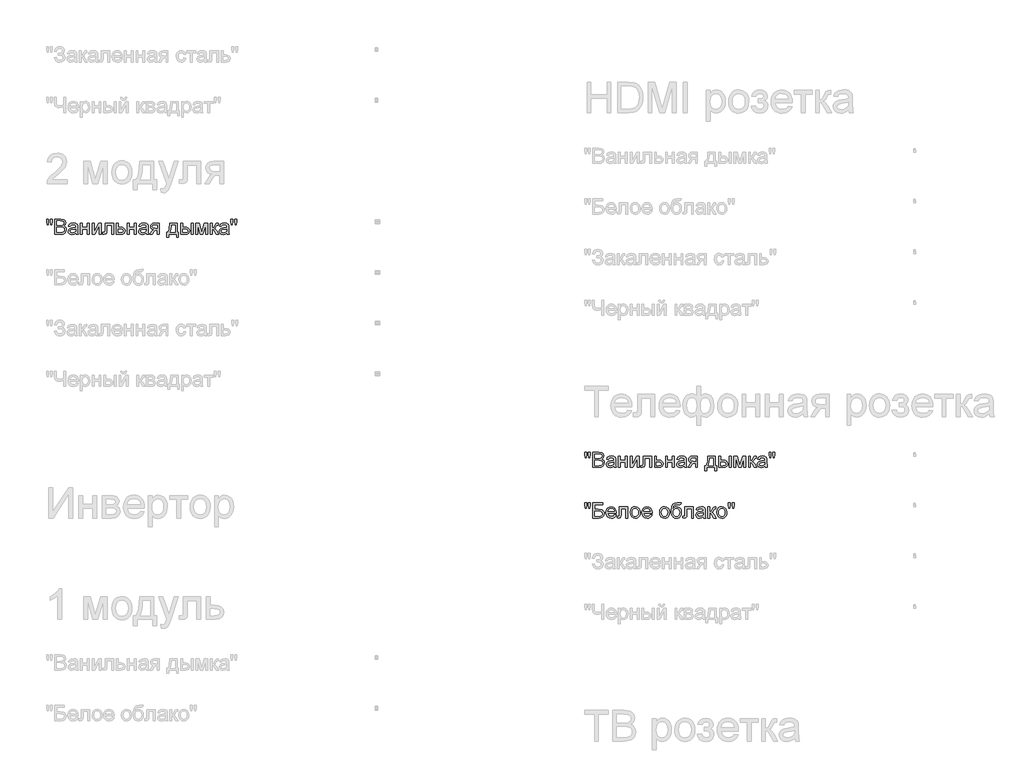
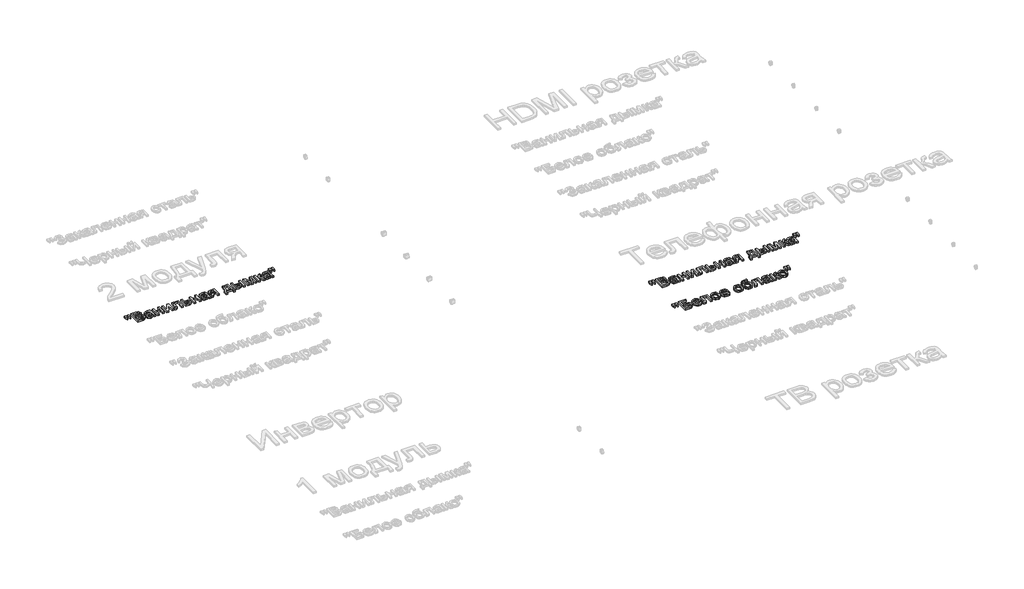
# One storey, part 52 of 168: 3 proxies.
"""IFC4 building model written with IfcOpenShell, lengths in millimetres."""

from ifc_helpers import new_model, si_unit, origin, origin_with_axes, place, context, project, spatial, polyline, outline, extrude, element, save

model = new_model("IFC4")

# Units and contexts
model_context = context("Model", 3, world=origin())
ifc_project = project(units=[si_unit("LENGTHUNIT", "METRE", prefix="MILLI")], contexts=[model_context])

# Site, building, storey
site = spatial("IfcSite", under=ifc_project)
building = spatial("IfcBuilding", under=site)
storey = spatial("IfcBuildingStorey", under=building, Name="Этаж 01", Elevation=0.0)

# Proxies
placement = place(None, origin())
element("IfcBuildingElementProxy", 1, Name="150", ObjectType="150", at=placement, inside=storey, context=model_context, shape_type="SweptSolid", body=[
    extrude(outline(polyline([(49080.1485789, -44670.3300622), (49075.550054, -44641.2305964), (49075.550054, -44616.1778325), (49094.3856121, -44616.1778325), (49094.3856121, -44641.2305964), (49090.2653338, -44670.3300622), (49080.1485789, -44670.3300622)])), origin_with_axes(), (0.0, 0.0, 1.0), 20.0),
    extrude(outline(polyline([(49117.7093306, -44670.3300622), (49113.2211703, -44641.2305964), (49113.2211703, -44616.1778325), (49132.0567284, -44616.1778325), (49132.0567284, -44641.2305964), (49127.6421445, -44670.3300622), (49117.7093306, -44670.3300622)])), origin_with_axes(), (0.0, 0.0, 1.0), 20.0),
    extrude(outline(polyline([(49157.9556209, -44766.8622977), (49157.9556209, -44616.1778325), (49215.4555767, -44616.1778325), (49243.6169435, -44620.6108106), (49253.0807078, -44626.2348066), (49260.2452096, -44634.2408385), (49266.2600803, -44653.517855), (49261.2017028, -44671.1210085), (49245.9162059, -44684.4567308), (49256.5893823, -44690.030143), (49264.4758526, -44698.509823), (49269.3456905, -44709.3347507), (49270.9689698, -44721.9439061), (49266.5359918, -44742.19581), (49255.5547142, -44756.6167842), (49239.1655713, -44764.2687297), (49215.0141183, -44766.8622977), (49157.9556209, -44766.8622977)]), holes=[polyline([(49176.791179, -44677.3933965), (49211.1881456, -44677.3933965), (49231.2745025, -44675.7747157), (49243.3594261, -44668.8033519), (49247.4245221, -44656.5344874), (49243.6353376, -44644.2472287), (49232.7828187, -44636.9815593), (49208.5761834, -44635.0133907), (49176.791179, -44635.0133907), (49176.791179, -44677.3933965)]), polyline([(49176.791179, -44748.0267396), (49215.4187885, -44748.0267396), (49229.3983043, -44747.2909756), (49241.2257105, -44743.1890913), (49249.061597, -44734.819776), (49252.1334117, -44722.1278471), (49248.5281681, -44707.4861437), (49236.8479148, -44698.7489463), (49213.5793786, -44696.2289547), (49176.791179, -44696.2289547), (49176.791179, -44748.0267396)])]), origin_with_axes(), (0.0, 0.0, 1.0), 20.0),
    extrude(outline(polyline([(49365.1467606, -44752.7356291), (49346.8814195, -44765.5011344), (49326.7030921, -44769.2167425), (49310.9623412, -44766.9818594), (49299.3510657, -44760.27721), (49292.1911624, -44750.0960758), (49289.804528, -44737.4317381), (49293.4097715, -44722.5325173), (49302.8827329, -44711.7167867), (49316.0713024, -44705.5363691), (49332.3684748, -44702.7036778), (49365.036396, -44696.2289547), (49365.1467606, -44692.0350999), (49363.8499765, -44683.6289963), (49359.9596244, -44678.1291605), (49351.2592153, -44674.0456704), (49339.1375035, -44672.684507), (49320.0812162, -44676.3081446), (49310.9945309, -44689.1656204), (49292.1589727, -44686.8111756), (49300.3075589, -44668.4170758), (49316.7150959, -44657.6381334), (49341.5655247, -44653.8489488), (49364.3926025, -44657.196675), (49377.2868664, -44665.6027786), (49383.0626137, -44678.3866779), (49383.9823187, -44694.8677913), (49383.9823187, -44718.3018744), (49384.9388119, -44751.0249778), (49388.6912083, -44766.8622977), (49369.8556501, -44766.8622977), (49365.1467606, -44752.7356291)]), holes=[polyline([(49365.1467606, -44715.0645128), (49334.7597078, -44720.8402601), (49318.5545059, -44723.8936807), (49311.2152601, -44728.8600876), (49308.6400861, -44736.1073629), (49314.2502865, -44746.2976942), (49330.7130058, -44750.3811843), (49349.7692932, -44745.8746299), (49362.0565518, -44734.9669288), (49365.036396, -44720.3988017), (49365.1467606, -44715.0645128)])]), origin_with_axes(), (0.0, 0.0, 1.0), 20.0),
    extrude(outline(polyline([(49409.8812112, -44656.2033936), (49428.7167693, -44656.2033936), (49428.7167693, -44698.5833994), (49478.1601095, -44698.5833994), (49478.1601095, -44656.2033936), (49496.9956676, -44656.2033936), (49496.9956676, -44766.8622977), (49478.1601095, -44766.8622977), (49478.1601095, -44717.4189576), (49428.7167693, -44717.4189576), (49428.7167693, -44766.8622977), (49409.8812112, -44766.8622977), (49409.8812112, -44656.2033936)])), origin_with_axes(), (0.0, 0.0, 1.0), 20.0),
    extrude(outline(polyline([(49525.2490049, -44656.2033936), (49544.084563, -44656.2033936), (49544.084563, -44740.5955233), (49590.364118, -44656.2033936), (49614.7179061, -44656.2033936), (49614.7179061, -44766.8622977), (49595.8823479, -44766.8622977), (49595.8823479, -44682.9852028), (49549.8970985, -44766.8622977), (49525.2490049, -44766.8622977), (49525.2490049, -44656.2033936)])), origin_with_axes(), (0.0, 0.0, 1.0), 20.0),
    extrude(outline(polyline([(49652.3890224, -44656.2033936), (49737.1490341, -44656.2033936), (49737.1490341, -44766.7519331), (49718.3134759, -44766.7519331), (49718.3134759, -44675.0389517), (49671.2245806, -44675.0389517), (49671.2245806, -44727.830018), (49669.9553877, -44752.1838061), (49662.9840239, -44762.4661079), (49646.5029105, -44766.8622977), (49631.1990195, -44765.9058045), (49631.1990195, -44748.0267396), (49639.6235172, -44748.0267396), (49648.1399854, -44746.8679113), (49651.5428938, -44743.1890913), (49652.3890224, -44726.7631603), (49652.3890224, -44656.2033936)])), origin_with_axes(), (0.0, 0.0, 1.0), 20.0),
    extrude(outline(polyline([(49765.4023713, -44656.2033936), (49784.2379295, -44656.2033936), (49784.2379295, -44696.2289547), (49805.9429672, -44696.2289547), (49824.7601312, -44698.587998), (49838.6844648, -44705.6651278), (49847.2929034, -44716.8901272), (49850.162383, -44731.692779), (49847.7205663, -44745.1710556), (49840.395116, -44756.5432078), (49827.6985887, -44764.2825252), (49809.1435405, -44766.8622977), (49765.4023713, -44766.8622977), (49765.4023713, -44656.2033936)]), holes=[polyline([(49784.2379295, -44748.0267396), (49801.8226888, -44748.0267396), (49824.539402, -44744.0720081), (49829.6299692, -44739.0090322), (49831.3268249, -44731.7295672), (49826.3052356, -44720.1412843), (49818.2348244, -44716.3337057), (49804.066769, -44715.0645128), (49784.2379295, -44715.0645128), (49784.2379295, -44748.0267396)])]), origin_with_axes(), (0.0, 0.0, 1.0), 20.0),
    extrude(outline(polyline([(49873.7068307, -44656.2033936), (49892.5423889, -44656.2033936), (49892.5423889, -44698.5833994), (49941.985729, -44698.5833994), (49941.985729, -44656.2033936), (49960.8212872, -44656.2033936), (49960.8212872, -44766.8622977), (49941.985729, -44766.8622977), (49941.985729, -44717.4189576), (49892.5423889, -44717.4189576), (49892.5423889, -44766.8622977), (49873.7068307, -44766.8622977), (49873.7068307, -44656.2033936)])), origin_with_axes(), (0.0, 0.0, 1.0), 20.0),
    extrude(outline(polyline([(50059.7079675, -44752.7356291), (50041.4426264, -44765.5011344), (50021.264299, -44769.2167425), (50005.5235481, -44766.9818594), (49993.9122726, -44760.27721), (49986.7523693, -44750.0960758), (49984.3657349, -44737.4317381), (49987.9709784, -44722.5325173), (49997.4439398, -44711.7167867), (50010.6325093, -44705.5363691), (50026.9296817, -44702.7036778), (50059.5976029, -44696.2289547), (50059.7079675, -44692.0350999), (50058.4111834, -44683.6289963), (50054.5208313, -44678.1291605), (50045.8204221, -44674.0456704), (50033.6987104, -44672.684507), (50014.6424231, -44676.3081446), (50005.5557378, -44689.1656204), (49986.7201796, -44686.8111756), (49994.8687658, -44668.4170758), (50011.2763028, -44657.6381334), (50036.1267316, -44653.8489488), (50058.9538094, -44657.196675), (50071.8480733, -44665.6027786), (50077.6238206, -44678.3866779), (50078.5435256, -44694.8677913), (50078.5435256, -44718.3018744), (50079.5000188, -44751.0249778), (50083.2524152, -44766.8622977), (50064.416857, -44766.8622977), (50059.7079675, -44752.7356291)]), holes=[polyline([(50059.7079675, -44715.0645128), (50029.3209147, -44720.8402601), (50013.1157128, -44723.8936807), (50005.776467, -44728.8600876), (50003.201293, -44736.1073629), (50008.8114934, -44746.2976942), (50025.2742127, -44750.3811843), (50044.3305001, -44745.8746299), (50056.6177587, -44734.9669288), (50059.5976029, -44720.3988017), (50059.7079675, -44715.0645128)])]), origin_with_axes(), (0.0, 0.0, 1.0), 20.0),
    extrude(outline(polyline([(50189.2024298, -44656.2033936), (50189.2024298, -44766.8622977), (50170.3668716, -44766.8622977), (50170.3668716, -44724.4822919), (50160.1029639, -44724.4822919), (50146.1234481, -44726.8735249), (50132.9900609, -44742.949968), (50117.9804755, -44766.8622977), (50096.2018614, -44766.8622977), (50115.1109959, -44736.6223977), (50123.4619172, -44725.7698789), (50131.1506509, -44720.9506247), (50118.2747811, -44717.0050903), (50109.224884, -44709.5094947), (50103.872201, -44699.5398926), (50102.0879733, -44688.172339), (50104.5251915, -44675.278075), (50111.8368462, -44665.0693497), (50123.7654199, -44658.4198826), (50140.0533952, -44656.2033936), (50189.2024298, -44656.2033936)]), holes=[polyline([(50170.3668716, -44675.0389517), (50145.5348369, -44675.0389517), (50132.7095509, -44676.1288021), (50125.4300859, -44679.3983534), (50120.9235315, -44689.6070787), (50122.583599, -44696.7853762), (50127.5638015, -44701.7655787), (50151.0898551, -44705.6467337), (50170.3668716, -44705.6467337), (50170.3668716, -44675.0389517)])]), origin_with_axes(), (0.0, 0.0, 1.0), 20.0),
    extrude(outline(polyline([(50292.7979996, -44656.2033936), (50363.4313427, -44656.2033936), (50363.4313427, -44748.0267396), (50377.5580113, -44748.0267396), (50377.5580113, -44797.4700797), (50358.7224531, -44797.4700797), (50358.7224531, -44766.8622977), (50281.0257758, -44766.8622977), (50281.0257758, -44797.4700797), (50262.1902176, -44797.4700797), (50262.1902176, -44748.0267396), (50273.9624415, -44748.0267396), (50282.5202964, -44732.5619002), (50288.5121744, -44712.1030628), (50292.7979996, -44656.2033936)]), holes=[polyline([(50309.279113, -44675.0389517), (50304.864529, -44717.9523865), (50295.1524444, -44748.0267396), (50344.5957845, -44748.0267396), (50344.5957845, -44675.0389517), (50309.279113, -44675.0389517)])]), origin_with_axes(), (0.0, 0.0, 1.0), 20.0),
    extrude(outline(polyline([(50502.3435841, -44656.2033936), (50521.1791422, -44656.2033936), (50521.1791422, -44766.8622977), (50502.3435841, -44766.8622977), (50502.3435841, -44656.2033936)])), origin_with_axes(), (0.0, 0.0, 1.0), 20.0),
    extrude(outline(polyline([(50398.7480142, -44656.2033936), (50417.5835724, -44656.2033936), (50417.5835724, -44696.2289547), (50440.8705027, -44696.2289547), (50460.9982463, -44698.587998), (50475.9112627, -44705.6651278), (50485.1405023, -44716.8901272), (50488.2169154, -44731.692779), (50485.637143, -44745.1710556), (50477.8978255, -44756.5432078), (50464.4931253, -44764.2825252), (50444.9172046, -44766.8622977), (50398.7480142, -44766.8622977), (50398.7480142, -44656.2033936)]), holes=[polyline([(50417.5835724, -44748.0267396), (50436.9341653, -44748.0267396), (50461.9133528, -44744.0720081), (50467.5143562, -44739.0090322), (50469.3813573, -44731.7295672), (50463.8447333, -44720.1412843), (50454.9649816, -44716.3337057), (50439.3989747, -44715.0645128), (50417.5835724, -44715.0645128), (50417.5835724, -44748.0267396)])]), origin_with_axes(), (0.0, 0.0, 1.0), 20.0),
    extrude(outline(polyline([(50549.4324794, -44656.2033936), (50581.8428832, -44656.2033936), (50606.8220707, -44744.789378), (50633.7510327, -44656.2033936), (50664.8002731, -44656.2033936), (50664.8002731, -44766.8622977), (50645.964715, -44766.8622977), (50645.964715, -44677.7612785), (50618.8886001, -44766.8622977), (50594.1669301, -44766.8622977), (50568.2680376, -44673.4938474), (50568.2680376, -44766.8622977), (50549.4324794, -44766.8622977), (50549.4324794, -44656.2033936)])), origin_with_axes(), (0.0, 0.0, 1.0), 20.0),
    extrude(outline(polyline([(50693.0536104, -44656.2033936), (50711.8891685, -44656.2033936), (50711.8891685, -44703.292289), (50724.5075209, -44699.9077746), (50734.845005, -44680.1892997), (50743.4350496, -44663.1747574), (50751.0134187, -44657.6381334), (50764.7905994, -44656.2033936), (50768.395843, -44656.2033936), (50768.395843, -44675.1493163), (50763.3190714, -44675.0389517), (50754.1220216, -44677.0255145), (50747.6472984, -44689.4231377), (50740.0505352, -44702.8324365), (50729.4003515, -44709.3991301), (50741.2829399, -44716.7291788), (50752.9447992, -44732.1710256), (50773.1047325, -44766.8622977), (50751.6940004, -44766.8622977), (50731.9387372, -44732.9067896), (50722.0059234, -44718.5409977), (50711.8891685, -44715.0645128), (50711.8891685, -44766.8622977), (50693.0536104, -44766.8622977), (50693.0536104, -44656.2033936)])), origin_with_axes(), (0.0, 0.0, 1.0), 20.0),
    extrude(outline(polyline([(50855.5102994, -44752.7356291), (50837.2449584, -44765.5011344), (50817.0666309, -44769.2167425), (50801.3258801, -44766.9818594), (50789.7146046, -44760.27721), (50782.5547013, -44750.0960758), (50780.1680668, -44737.4317381), (50783.7733104, -44722.5325173), (50793.2462717, -44711.7167867), (50806.4348413, -44705.5363691), (50822.7320137, -44702.7036778), (50855.3999348, -44696.2289547), (50855.5102994, -44692.0350999), (50854.2135154, -44683.6289963), (50850.3231633, -44678.1291605), (50841.6227541, -44674.0456704), (50829.5010424, -44672.684507), (50810.444755, -44676.3081446), (50801.3580697, -44689.1656204), (50782.5225116, -44686.8111756), (50790.6710978, -44668.4170758), (50807.0786348, -44657.6381334), (50831.9290635, -44653.8489488), (50854.7561413, -44657.196675), (50867.6504053, -44665.6027786), (50873.4261526, -44678.3866779), (50874.3458576, -44694.8677913), (50874.3458576, -44718.3018744), (50875.3023508, -44751.0249778), (50879.0547471, -44766.8622977), (50860.219189, -44766.8622977), (50855.5102994, -44752.7356291)]), holes=[polyline([(50855.5102994, -44715.0645128), (50825.1232466, -44720.8402601), (50808.9180447, -44723.8936807), (50801.5787989, -44728.8600876), (50799.003625, -44736.1073629), (50804.6138254, -44746.2976942), (50821.0765447, -44750.3811843), (50840.132832, -44745.8746299), (50852.4200907, -44734.9669288), (50855.3999348, -44720.3988017), (50855.5102994, -44715.0645128)])]), origin_with_axes(), (0.0, 0.0, 1.0), 20.0),
    extrude(outline(polyline([(50900.1343854, -44670.3300622), (50895.5358605, -44641.2305964), (50895.5358605, -44616.1778325), (50914.3714187, -44616.1778325), (50914.3714187, -44641.2305964), (50910.2511403, -44670.3300622), (50900.1343854, -44670.3300622)])), origin_with_axes(), (0.0, 0.0, 1.0), 20.0),
    extrude(outline(polyline([(50937.6951372, -44670.3300622), (50933.2069768, -44641.2305964), (50933.2069768, -44616.1778325), (50952.042535, -44616.1778325), (50952.042535, -44641.2305964), (50947.627951, -44670.3300622), (50937.6951372, -44670.3300622)])), origin_with_axes(), (0.0, 0.0, 1.0), 20.0),
])
element("IfcBuildingElementProxy", 2, Name="150", ObjectType="150", at=placement, inside=storey, context=model_context, shape_type="SweptSolid", body=[
    extrude(outline(polyline([(54389.7772739, -46970.3300622), (54385.178749, -46941.2305964), (54385.178749, -46916.1778325), (54404.0143071, -46916.1778325), (54404.0143071, -46941.2305964), (54399.8940288, -46970.3300622), (54389.7772739, -46970.3300622)])), origin_with_axes(), (0.0, 0.0, 1.0), 20.0),
    extrude(outline(polyline([(54427.3380256, -46970.3300622), (54422.8498653, -46941.2305964), (54422.8498653, -46916.1778325), (54441.6854234, -46916.1778325), (54441.6854234, -46941.2305964), (54437.2708395, -46970.3300622), (54427.3380256, -46970.3300622)])), origin_with_axes(), (0.0, 0.0, 1.0), 20.0),
    extrude(outline(polyline([(54467.5843159, -47066.8622977), (54467.5843159, -46916.1778325), (54525.0842718, -46916.1778325), (54553.2456385, -46920.6108106), (54562.7094028, -46926.2348066), (54569.8739047, -46934.2408385), (54575.8887753, -46953.517855), (54570.8303979, -46971.1210085), (54555.544901, -46984.4567308), (54566.2180773, -46990.030143), (54574.1045476, -46998.509823), (54578.9743855, -47009.3347507), (54580.5976648, -47021.9439061), (54576.1646868, -47042.19581), (54565.1834092, -47056.6167842), (54548.7942663, -47064.2687297), (54524.6428134, -47066.8622977), (54467.5843159, -47066.8622977)]), holes=[polyline([(54486.4198741, -46977.3933965), (54520.8168406, -46977.3933965), (54540.9031975, -46975.7747157), (54552.9881211, -46968.8033519), (54557.0532171, -46956.5344874), (54553.2640326, -46944.2472287), (54542.4115137, -46936.9815593), (54518.2048784, -46935.0133907), (54486.4198741, -46935.0133907), (54486.4198741, -46977.3933965)]), polyline([(54486.4198741, -47048.0267396), (54525.0474836, -47048.0267396), (54539.0269994, -47047.2909756), (54550.8544055, -47043.1890913), (54558.690292, -47034.819776), (54561.7621067, -47022.1278471), (54558.1568631, -47007.4861437), (54546.4766098, -46998.7489463), (54523.2080736, -46996.2289547), (54486.4198741, -46996.2289547), (54486.4198741, -47048.0267396)])]), origin_with_axes(), (0.0, 0.0, 1.0), 20.0),
    extrude(outline(polyline([(54674.7754556, -47052.7356291), (54656.5101145, -47065.5011344), (54636.3317871, -47069.2167425), (54620.5910362, -47066.9818594), (54608.9797608, -47060.27721), (54601.8198574, -47050.0960758), (54599.433223, -47037.4317381), (54603.0384665, -47022.5325173), (54612.5114279, -47011.7167867), (54625.6999974, -47005.5363691), (54641.9971698, -47002.7036778), (54674.665091, -46996.2289547), (54674.7754556, -46992.0350999), (54673.4786716, -46983.6289963), (54669.5883195, -46978.1291605), (54660.8879103, -46974.0456704), (54648.7661985, -46972.684507), (54629.7099112, -46976.3081446), (54620.6232259, -46989.1656204), (54601.7876677, -46986.8111756), (54609.9362539, -46968.4170758), (54626.3437909, -46957.6381334), (54651.1942197, -46953.8489488), (54674.0212975, -46957.196675), (54686.9155614, -46965.6027786), (54692.6913088, -46978.3866779), (54693.6110137, -46994.8677913), (54693.6110137, -47018.3018744), (54694.5675069, -47051.0249778), (54698.3199033, -47066.8622977), (54679.4843451, -47066.8622977), (54674.7754556, -47052.7356291)]), holes=[polyline([(54674.7754556, -47015.0645128), (54644.3884028, -47020.8402601), (54628.1832009, -47023.8936807), (54620.8439551, -47028.8600876), (54618.2687811, -47036.1073629), (54623.8789816, -47046.2976942), (54640.3417008, -47050.3811843), (54659.3979882, -47045.8746299), (54671.6852468, -47034.9669288), (54674.665091, -47020.3988017), (54674.7754556, -47015.0645128)])]), origin_with_axes(), (0.0, 0.0, 1.0), 20.0),
    extrude(outline(polyline([(54719.5099062, -46956.2033936), (54738.3454644, -46956.2033936), (54738.3454644, -46998.5833994), (54787.7888045, -46998.5833994), (54787.7888045, -46956.2033936), (54806.6243627, -46956.2033936), (54806.6243627, -47066.8622977), (54787.7888045, -47066.8622977), (54787.7888045, -47017.4189576), (54738.3454644, -47017.4189576), (54738.3454644, -47066.8622977), (54719.5099062, -47066.8622977), (54719.5099062, -46956.2033936)])), origin_with_axes(), (0.0, 0.0, 1.0), 20.0),
    extrude(outline(polyline([(54834.8776999, -46956.2033936), (54853.713258, -46956.2033936), (54853.713258, -47040.5955233), (54899.992813, -46956.2033936), (54924.3466011, -46956.2033936), (54924.3466011, -47066.8622977), (54905.511043, -47066.8622977), (54905.511043, -46982.9852028), (54859.5257936, -47066.8622977), (54834.8776999, -47066.8622977), (54834.8776999, -46956.2033936)])), origin_with_axes(), (0.0, 0.0, 1.0), 20.0),
    extrude(outline(polyline([(54962.0177174, -46956.2033936), (55046.7777291, -46956.2033936), (55046.7777291, -47066.7519331), (55027.942171, -47066.7519331), (55027.942171, -46975.0389517), (54980.8532756, -46975.0389517), (54980.8532756, -47027.830018), (54979.5840827, -47052.1838061), (54972.6127189, -47062.4661079), (54956.1316055, -47066.8622977), (54940.8277145, -47065.9058045), (54940.8277145, -47048.0267396), (54949.2522122, -47048.0267396), (54957.7686804, -47046.8679113), (54961.1715888, -47043.1890913), (54962.0177174, -47026.7631603), (54962.0177174, -46956.2033936)])), origin_with_axes(), (0.0, 0.0, 1.0), 20.0),
    extrude(outline(polyline([(55075.0310663, -46956.2033936), (55093.8666245, -46956.2033936), (55093.8666245, -46996.2289547), (55115.5716622, -46996.2289547), (55134.3888263, -46998.587998), (55148.3131598, -47005.6651278), (55156.9215985, -47016.8901272), (55159.791078, -47031.692779), (55157.3492613, -47045.1710556), (55150.0238111, -47056.5432078), (55137.3272837, -47064.2825252), (55118.7722356, -47066.8622977), (55075.0310663, -47066.8622977), (55075.0310663, -46956.2033936)]), holes=[polyline([(55093.8666245, -47048.0267396), (55111.4513839, -47048.0267396), (55134.1680971, -47044.0720081), (55139.2586642, -47039.0090322), (55140.9555199, -47031.7295672), (55135.9339306, -47020.1412843), (55127.8635194, -47016.3337057), (55113.695464, -47015.0645128), (55093.8666245, -47015.0645128), (55093.8666245, -47048.0267396)])]), origin_with_axes(), (0.0, 0.0, 1.0), 20.0),
    extrude(outline(polyline([(55183.3355257, -46956.2033936), (55202.1710839, -46956.2033936), (55202.1710839, -46998.5833994), (55251.614424, -46998.5833994), (55251.614424, -46956.2033936), (55270.4499822, -46956.2033936), (55270.4499822, -47066.8622977), (55251.614424, -47066.8622977), (55251.614424, -47017.4189576), (55202.1710839, -47017.4189576), (55202.1710839, -47066.8622977), (55183.3355257, -47066.8622977), (55183.3355257, -46956.2033936)])), origin_with_axes(), (0.0, 0.0, 1.0), 20.0),
    extrude(outline(polyline([(55369.3366625, -47052.7356291), (55351.0713214, -47065.5011344), (55330.892994, -47069.2167425), (55315.1522431, -47066.9818594), (55303.5409676, -47060.27721), (55296.3810643, -47050.0960758), (55293.9944299, -47037.4317381), (55297.5996734, -47022.5325173), (55307.0726348, -47011.7167867), (55320.2612043, -47005.5363691), (55336.5583767, -47002.7036778), (55369.2262979, -46996.2289547), (55369.3366625, -46992.0350999), (55368.0398785, -46983.6289963), (55364.1495264, -46978.1291605), (55355.4491172, -46974.0456704), (55343.3274054, -46972.684507), (55324.2711181, -46976.3081446), (55315.1844328, -46989.1656204), (55296.3488746, -46986.8111756), (55304.4974608, -46968.4170758), (55320.9049978, -46957.6381334), (55345.7554266, -46953.8489488), (55368.5825044, -46957.196675), (55381.4767683, -46965.6027786), (55387.2525157, -46978.3866779), (55388.1722206, -46994.8677913), (55388.1722206, -47018.3018744), (55389.1287138, -47051.0249778), (55392.8811102, -47066.8622977), (55374.045552, -47066.8622977), (55369.3366625, -47052.7356291)]), holes=[polyline([(55369.3366625, -47015.0645128), (55338.9496097, -47020.8402601), (55322.7444078, -47023.8936807), (55315.405162, -47028.8600876), (55312.829988, -47036.1073629), (55318.4401885, -47046.2976942), (55334.9029077, -47050.3811843), (55353.9591951, -47045.8746299), (55366.2464537, -47034.9669288), (55369.2262979, -47020.3988017), (55369.3366625, -47015.0645128)])]), origin_with_axes(), (0.0, 0.0, 1.0), 20.0),
    extrude(outline(polyline([(55498.8311248, -46956.2033936), (55498.8311248, -47066.8622977), (55479.9955666, -47066.8622977), (55479.9955666, -47024.4822919), (55469.731659, -47024.4822919), (55455.7521432, -47026.8735249), (55442.6187559, -47042.949968), (55427.6091705, -47066.8622977), (55405.8305564, -47066.8622977), (55424.739691, -47036.6223977), (55433.0906122, -47025.7698789), (55440.7793459, -47020.9506247), (55427.9034761, -47017.0050903), (55418.853579, -47009.5094947), (55413.500896, -46999.5398926), (55411.7166683, -46988.172339), (55414.1538865, -46975.278075), (55421.4655412, -46965.0693497), (55433.3941149, -46958.4198826), (55449.6820902, -46956.2033936), (55498.8311248, -46956.2033936)]), holes=[polyline([(55479.9955666, -46975.0389517), (55455.163532, -46975.0389517), (55442.3382459, -46976.1288021), (55435.0587809, -46979.3983534), (55430.5522265, -46989.6070787), (55432.212294, -46996.7853762), (55437.1924965, -47001.7655787), (55460.7185501, -47005.6467337), (55479.9955666, -47005.6467337), (55479.9955666, -46975.0389517)])]), origin_with_axes(), (0.0, 0.0, 1.0), 20.0),
    extrude(outline(polyline([(55602.4266946, -46956.2033936), (55673.0600377, -46956.2033936), (55673.0600377, -47048.0267396), (55687.1867063, -47048.0267396), (55687.1867063, -47097.4700797), (55668.3511482, -47097.4700797), (55668.3511482, -47066.8622977), (55590.6544708, -47066.8622977), (55590.6544708, -47097.4700797), (55571.8189126, -47097.4700797), (55571.8189126, -47048.0267396), (55583.5911365, -47048.0267396), (55592.1489914, -47032.5619002), (55598.1408694, -47012.1030628), (55602.4266946, -46956.2033936)]), holes=[polyline([(55618.907808, -46975.0389517), (55614.4932241, -47017.9523865), (55604.7811394, -47048.0267396), (55654.2244796, -47048.0267396), (55654.2244796, -46975.0389517), (55618.907808, -46975.0389517)])]), origin_with_axes(), (0.0, 0.0, 1.0), 20.0),
    extrude(outline(polyline([(55811.9722791, -46956.2033936), (55830.8078372, -46956.2033936), (55830.8078372, -47066.8622977), (55811.9722791, -47066.8622977), (55811.9722791, -46956.2033936)])), origin_with_axes(), (0.0, 0.0, 1.0), 20.0),
    extrude(outline(polyline([(55708.3767092, -46956.2033936), (55727.2122674, -46956.2033936), (55727.2122674, -46996.2289547), (55750.4991977, -46996.2289547), (55770.6269413, -46998.587998), (55785.5399577, -47005.6651278), (55794.7691973, -47016.8901272), (55797.8456105, -47031.692779), (55795.265838, -47045.1710556), (55787.5265205, -47056.5432078), (55774.1218203, -47064.2825252), (55754.5458996, -47066.8622977), (55708.3767092, -47066.8622977), (55708.3767092, -46956.2033936)]), holes=[polyline([(55727.2122674, -47048.0267396), (55746.5628603, -47048.0267396), (55771.5420478, -47044.0720081), (55777.1430512, -47039.0090322), (55779.0100523, -47031.7295672), (55773.4734283, -47020.1412843), (55764.5936766, -47016.3337057), (55749.0276697, -47015.0645128), (55727.2122674, -47015.0645128), (55727.2122674, -47048.0267396)])]), origin_with_axes(), (0.0, 0.0, 1.0), 20.0),
    extrude(outline(polyline([(55859.0611745, -46956.2033936), (55891.4715782, -46956.2033936), (55916.4507657, -47044.789378), (55943.3797278, -46956.2033936), (55974.4289682, -46956.2033936), (55974.4289682, -47066.8622977), (55955.59341, -47066.8622977), (55955.59341, -46977.7612785), (55928.5172952, -47066.8622977), (55903.7956251, -47066.8622977), (55877.8967326, -46973.4938474), (55877.8967326, -47066.8622977), (55859.0611745, -47066.8622977), (55859.0611745, -46956.2033936)])), origin_with_axes(), (0.0, 0.0, 1.0), 20.0),
    extrude(outline(polyline([(56002.6823054, -46956.2033936), (56021.5178635, -46956.2033936), (56021.5178635, -47003.292289), (56034.136216, -46999.9077746), (56044.4737, -46980.1892997), (56053.0637446, -46963.1747574), (56060.6421137, -46957.6381334), (56074.4192944, -46956.2033936), (56078.024538, -46956.2033936), (56078.024538, -46975.1493163), (56072.9477665, -46975.0389517), (56063.7507166, -46977.0255145), (56057.2759935, -46989.4231377), (56049.6792303, -47002.8324365), (56039.0290465, -47009.3991301), (56050.9116349, -47016.7291788), (56062.5734942, -47032.1710256), (56082.7334275, -47066.8622977), (56061.3226954, -47066.8622977), (56041.5674323, -47032.9067896), (56031.6346184, -47018.5409977), (56021.5178635, -47015.0645128), (56021.5178635, -47066.8622977), (56002.6823054, -47066.8622977), (56002.6823054, -46956.2033936)])), origin_with_axes(), (0.0, 0.0, 1.0), 20.0),
    extrude(outline(polyline([(56165.1389945, -47052.7356291), (56146.8736534, -47065.5011344), (56126.695326, -47069.2167425), (56110.9545751, -47066.9818594), (56099.3432996, -47060.27721), (56092.1833963, -47050.0960758), (56089.7967618, -47037.4317381), (56093.4020054, -47022.5325173), (56102.8749668, -47011.7167867), (56116.0635363, -47005.5363691), (56132.3607087, -47002.7036778), (56165.0286299, -46996.2289547), (56165.1389945, -46992.0350999), (56163.8422104, -46983.6289963), (56159.9518583, -46978.1291605), (56151.2514491, -46974.0456704), (56139.1297374, -46972.684507), (56120.07345, -46976.3081446), (56110.9867648, -46989.1656204), (56092.1512066, -46986.8111756), (56100.2997928, -46968.4170758), (56116.7073298, -46957.6381334), (56141.5577586, -46953.8489488), (56164.3848364, -46957.196675), (56177.2791003, -46965.6027786), (56183.0548476, -46978.3866779), (56183.9745526, -46994.8677913), (56183.9745526, -47018.3018744), (56184.9310458, -47051.0249778), (56188.6834421, -47066.8622977), (56169.847884, -47066.8622977), (56165.1389945, -47052.7356291)]), holes=[polyline([(56165.1389945, -47015.0645128), (56134.7519417, -47020.8402601), (56118.5467398, -47023.8936807), (56111.207494, -47028.8600876), (56108.63232, -47036.1073629), (56114.2425204, -47046.2976942), (56130.7052397, -47050.3811843), (56149.7615271, -47045.8746299), (56162.0487857, -47034.9669288), (56165.0286299, -47020.3988017), (56165.1389945, -47015.0645128)])]), origin_with_axes(), (0.0, 0.0, 1.0), 20.0),
    extrude(outline(polyline([(56209.7630805, -46970.3300622), (56205.1645555, -46941.2305964), (56205.1645555, -46916.1778325), (56224.0001137, -46916.1778325), (56224.0001137, -46941.2305964), (56219.8798353, -46970.3300622), (56209.7630805, -46970.3300622)])), origin_with_axes(), (0.0, 0.0, 1.0), 20.0),
    extrude(outline(polyline([(56247.3238322, -46970.3300622), (56242.8356718, -46941.2305964), (56242.8356718, -46916.1778325), (56261.67123, -46916.1778325), (56261.67123, -46941.2305964), (56257.256646, -46970.3300622), (56247.3238322, -46970.3300622)])), origin_with_axes(), (0.0, 0.0, 1.0), 20.0),
])
element("IfcBuildingElementProxy", 3, Name="150", ObjectType="150", at=placement, inside=storey, context=model_context, shape_type="SweptSolid", body=[
    extrude(outline(polyline([(54389.7772739, -47470.3300622), (54385.178749, -47441.2305964), (54385.178749, -47416.1778325), (54404.0143071, -47416.1778325), (54404.0143071, -47441.2305964), (54399.8940288, -47470.3300622), (54389.7772739, -47470.3300622)])), origin_with_axes(), (0.0, 0.0, 1.0), 20.0),
    extrude(outline(polyline([(54427.3380256, -47470.3300622), (54422.8498653, -47441.2305964), (54422.8498653, -47416.1778325), (54441.6854234, -47416.1778325), (54441.6854234, -47441.2305964), (54437.2708395, -47470.3300622), (54427.3380256, -47470.3300622)])), origin_with_axes(), (0.0, 0.0, 1.0), 20.0),
    extrude(outline(polyline([(54467.5843159, -47416.1778325), (54561.7621067, -47416.1778325), (54561.7621067, -47435.0133907), (54486.4198741, -47435.0133907), (54486.4198741, -47479.7478413), (54521.6997574, -47479.7478413), (54552.785786, -47483.573814), (54563.1876494, -47489.101241), (54571.2902503, -47498.0315764), (54576.5049776, -47509.5278888), (54578.2432201, -47522.7532465), (54573.2952072, -47544.2191609), (54558.5247451, -47560.5347274), (54545.2534021, -47565.2804052), (54525.0842718, -47566.8622977), (54467.5843159, -47566.8622977), (54467.5843159, -47416.1778325)]), holes=[polyline([(54486.4198741, -47548.0267396), (54526.7765289, -47548.0267396), (54541.0411533, -47546.4724382), (54551.2406816, -47541.8095339), (54557.3659168, -47534.0380267), (54559.4076619, -47523.1579167), (54554.7355606, -47508.4058487), (54541.730932, -47500.533174), (54513.3488361, -47498.5833994), (54486.4198741, -47498.5833994), (54486.4198741, -47548.0267396)])]), origin_with_axes(), (0.0, 0.0, 1.0), 20.0),
    extrude(outline(polyline([(54679.2636159, -47533.900071), (54697.7312921, -47536.2545157), (54691.0772265, -47550.1696522), (54680.4592324, -47560.5715156), (54666.1164331, -47567.0554358), (54648.2879519, -47569.2167425), (54626.1874411, -47565.4873388), (54609.1820959, -47554.2991276), (54598.338774, -47536.3786759), (54594.7243334, -47512.4525506), (54598.3755622, -47487.7216835), (54609.3292486, -47469.2264162), (54626.1046676, -47457.6933157), (54647.2210942, -47453.8489488), (54667.6799316, -47457.6841186), (54684.0276878, -47469.189628), (54694.7468494, -47487.6481071), (54698.3199033, -47512.342186), (54698.2095387, -47517.4189576), (54613.5598916, -47517.4189576), (54616.8202458, -47531.518035), (54624.3940164, -47541.8831103), (54635.3247101, -47548.2566658), (54648.6558339, -47550.3811843), (54667.1235101, -47546.444847), (54679.2636159, -47533.900071)]), holes=[polyline([(54613.5598916, -47498.5833994), (54679.4843451, -47498.5833994), (54676.9367623, -47488.6321915), (54671.9427642, -47481.5136749), (54660.9614867, -47474.8917989), (54647.1475178, -47472.684507), (54634.4509904, -47474.445742), (54623.952558, -47479.7294472), (54616.6546989, -47487.9654053), (54613.5598916, -47498.5833994)])]), origin_with_axes(), (0.0, 0.0, 1.0), 20.0),
    extrude(outline(polyline([(54726.5732405, -47456.2033936), (54811.3332522, -47456.2033936), (54811.3332522, -47566.7519331), (54792.497694, -47566.7519331), (54792.497694, -47475.0389517), (54745.4087987, -47475.0389517), (54745.4087987, -47527.830018), (54744.1396058, -47552.1838061), (54737.168242, -47562.4661079), (54720.6871286, -47566.8622977), (54705.3832376, -47565.9058045), (54705.3832376, -47548.0267396), (54713.8077353, -47548.0267396), (54722.3242035, -47546.8679113), (54725.7271119, -47543.1890913), (54726.5732405, -47526.7631603), (54726.5732405, -47456.2033936)])), origin_with_axes(), (0.0, 0.0, 1.0), 20.0),
    extrude(outline(polyline([(54834.8776999, -47511.5328457), (54838.951993, -47484.852204), (54851.1748723, -47466.0994193), (54866.2764282, -47456.9115664), (54884.3578282, -47453.8489488), (54904.1452811, -47457.5783525), (54919.9504113, -47468.7665637), (54930.310888, -47486.5306656), (54933.7643802, -47509.9877413), (54932.2376699, -47529.0164375), (54927.6575391, -47543.501791), (54920.1573449, -47554.3497114), (54909.8704446, -47562.4661079), (54897.6521638, -47567.5290839), (54884.3578282, -47569.2167425), (54864.3312521, -47565.5011344), (54848.544516, -47554.3543099), (54838.2944039, -47536.2177275), (54834.8776999, -47511.5328457)]), holes=[polyline([(54853.713258, -47511.4960575), (54855.8929589, -47528.5427894), (54862.4320613, -47540.6874938), (54872.2729047, -47547.9577617), (54884.3578282, -47550.3811843), (54896.3875695, -47547.9439661), (54906.2100188, -47540.6323115), (54912.7491212, -47528.3266587), (54914.928822, -47510.9074463), (54912.7353256, -47494.357355), (54906.1548365, -47482.3781975), (54896.3185916, -47475.1079296), (54884.3578282, -47472.684507), (54872.2729047, -47475.0987326), (54862.4320613, -47482.3414093), (54855.8929589, -47494.4585226), (54853.713258, -47511.4960575)])]), origin_with_axes(), (0.0, 0.0, 1.0), 20.0),
    extrude(outline(polyline([(55032.4303313, -47533.900071), (55050.8980075, -47536.2545157), (55044.2439419, -47550.1696522), (55033.6259478, -47560.5715156), (55019.2831485, -47567.0554358), (55001.4546673, -47569.2167425), (54979.3541564, -47565.4873388), (54962.3488112, -47554.2991276), (54951.5054894, -47536.3786759), (54947.8910488, -47512.4525506), (54951.5422776, -47487.7216835), (54962.495964, -47469.2264162), (54979.271383, -47457.6933157), (55000.3878095, -47453.8489488), (55020.846647, -47457.6841186), (55037.1944031, -47469.189628), (55047.9135648, -47487.6481071), (55051.4866187, -47512.342186), (55051.3762541, -47517.4189576), (54966.726607, -47517.4189576), (54969.9869611, -47531.518035), (54977.5607317, -47541.8831103), (54988.4914255, -47548.2566658), (55001.8225493, -47550.3811843), (55020.2902255, -47546.444847), (55032.4303313, -47533.900071)]), holes=[polyline([(54966.726607, -47498.5833994), (55032.6510605, -47498.5833994), (55030.1034777, -47488.6321915), (55025.1094796, -47481.5136749), (55014.128202, -47474.8917989), (55000.3142331, -47472.684507), (54987.6177058, -47474.445742), (54977.1192733, -47479.7294472), (54969.8214142, -47487.9654053), (54966.726607, -47498.5833994)])]), origin_with_axes(), (0.0, 0.0, 1.0), 20.0),
    extrude(outline(polyline([(55124.4744065, -47511.5328457), (55128.5486996, -47484.852204), (55140.7715789, -47466.0994193), (55155.8731348, -47456.9115664), (55173.9545348, -47453.8489488), (55193.7419877, -47457.5783525), (55209.5471179, -47468.7665637), (55219.9075946, -47486.5306656), (55223.3610868, -47509.9877413), (55221.8343765, -47529.0164375), (55217.2542457, -47543.501791), (55209.7540515, -47554.3497114), (55199.4671512, -47562.4661079), (55187.2488704, -47567.5290839), (55173.9545348, -47569.2167425), (55153.9279587, -47565.5011344), (55138.1412226, -47554.3543099), (55127.8911105, -47536.2177275), (55124.4744065, -47511.5328457)]), holes=[polyline([(55143.3099646, -47511.4960575), (55145.4896655, -47528.5427894), (55152.0287679, -47540.6874938), (55161.8696113, -47547.9577617), (55173.9545348, -47550.3811843), (55185.9842761, -47547.9439661), (55195.8067254, -47540.6323115), (55202.3458278, -47528.3266587), (55204.5255286, -47510.9074463), (55202.3320323, -47494.357355), (55195.7515431, -47482.3781975), (55185.9152982, -47475.1079296), (55173.9545348, -47472.684507), (55161.8696113, -47475.0987326), (55152.0287679, -47482.3414093), (55145.4896655, -47494.4585226), (55143.3099646, -47511.4960575)])]), origin_with_axes(), (0.0, 0.0, 1.0), 20.0),
    extrude(outline(polyline([(55322.2477671, -47413.8233877), (55338.7288805, -47413.8233877), (55333.8728382, -47428.5202734), (55324.2711181, -47433.8361683), (55301.204917, -47435.0133907), (55270.1372825, -47439.3543982), (55263.0095688, -47445.0013868), (55258.2179058, -47453.2603376), (55254.189598, -47477.8716431), (55270.5051645, -47459.8454253), (55280.4241828, -47455.3480679), (55291.5296205, -47453.8489488), (55311.1285338, -47457.661126), (55327.030233, -47469.0976575), (55337.5700522, -47487.0365033), (55341.0833253, -47510.3556233), (55339.3404843, -47528.3358558), (55334.1119614, -47542.766027), (55317.5756658, -47562.3189551), (55306.2816885, -47567.4922957), (55291.5296205, -47569.2167425), (55274.5288738, -47566.995655), (55261.7863612, -47560.3323923), (55252.4099688, -47550.2064404), (55245.5075829, -47537.597285), (55241.2585459, -47518.6099755), (55239.8422002, -47489.3495614), (55243.4152541, -47453.2097538), (55254.1344157, -47431.1690238), (55272.2663995, -47419.9256303), (55298.07792, -47416.1778325), (55319.0471937, -47415.7547682), (55322.2477671, -47413.8233877)]), holes=[polyline([(55322.2477671, -47509.7670121), (55320.206022, -47494.9459662), (55314.0807868, -47483.0771733), (55304.2399434, -47475.2826736), (55291.0513739, -47472.684507), (55277.3017843, -47475.4298264), (55267.102256, -47483.6657845), (55260.7838828, -47496.4910706), (55258.6777583, -47513.0043736), (55261.004612, -47529.011839), (55267.9851728, -47540.7610702), (55278.3778392, -47547.9761558), (55290.9410093, -47550.3811843), (55303.5685588, -47547.5990768), (55313.565752, -47539.252754), (55320.0772633, -47526.3171033), (55322.2477671, -47509.7670121)])]), origin_with_axes(), (0.0, 0.0, 1.0), 20.0),
    extrude(outline(polyline([(55374.045552, -47456.2033936), (55458.8055637, -47456.2033936), (55458.8055637, -47566.7519331), (55439.9700056, -47566.7519331), (55439.9700056, -47475.0389517), (55392.8811102, -47475.0389517), (55392.8811102, -47527.830018), (55391.6119173, -47552.1838061), (55384.6405535, -47562.4661079), (55368.1594401, -47566.8622977), (55352.8555491, -47565.9058045), (55352.8555491, -47548.0267396), (55361.2800468, -47548.0267396), (55369.796515, -47546.8679113), (55373.1994234, -47543.1890913), (55374.045552, -47526.7631603), (55374.045552, -47456.2033936)])), origin_with_axes(), (0.0, 0.0, 1.0), 20.0),
    extrude(outline(polyline([(55557.692244, -47552.7356291), (55539.426903, -47565.5011344), (55519.2485755, -47569.2167425), (55503.5078247, -47566.9818594), (55491.8965492, -47560.27721), (55484.7366458, -47550.0960758), (55482.3500114, -47537.4317381), (55485.955255, -47522.5325173), (55495.4282163, -47511.7167867), (55508.6167859, -47505.5363691), (55524.9139582, -47502.7036778), (55557.5818794, -47496.2289547), (55557.692244, -47492.0350999), (55556.39546, -47483.6289963), (55552.5051079, -47478.1291605), (55543.8046987, -47474.0456704), (55531.682987, -47472.684507), (55512.6266996, -47476.3081446), (55503.5400143, -47489.1656204), (55484.7044562, -47486.8111756), (55492.8530424, -47468.4170758), (55509.2605794, -47457.6381334), (55534.1110081, -47453.8489488), (55556.9380859, -47457.196675), (55569.8323499, -47465.6027786), (55575.6080972, -47478.3866779), (55576.5278022, -47494.8677913), (55576.5278022, -47518.3018744), (55577.4842954, -47551.0249778), (55581.2366917, -47566.8622977), (55562.4011336, -47566.8622977), (55557.692244, -47552.7356291)]), holes=[polyline([(55557.692244, -47515.0645128), (55527.3051912, -47520.8402601), (55511.0999893, -47523.8936807), (55503.7607435, -47528.8600876), (55501.1855696, -47536.1073629), (55506.79577, -47546.2976942), (55523.2584893, -47550.3811843), (55542.3147766, -47545.8746299), (55554.6020353, -47534.9669288), (55557.5818794, -47520.3988017), (55557.692244, -47515.0645128)])]), origin_with_axes(), (0.0, 0.0, 1.0), 20.0),
    extrude(outline(polyline([(55602.4266946, -47456.2033936), (55621.2622528, -47456.2033936), (55621.2622528, -47503.292289), (55633.8806052, -47499.9077746), (55644.2180893, -47480.1892997), (55652.8081339, -47463.1747574), (55660.386503, -47457.6381334), (55674.1636837, -47456.2033936), (55677.7689272, -47456.2033936), (55677.7689272, -47475.1493163), (55672.6921557, -47475.0389517), (55663.4951058, -47477.0255145), (55657.0203827, -47489.4231377), (55649.4236195, -47502.8324365), (55638.7734358, -47509.3991301), (55650.6560242, -47516.7291788), (55662.3178834, -47532.1710256), (55682.4778168, -47566.8622977), (55661.0670847, -47566.8622977), (55641.3118215, -47532.9067896), (55631.3790077, -47518.5409977), (55621.2622528, -47515.0645128), (55621.2622528, -47566.8622977), (55602.4266946, -47566.8622977), (55602.4266946, -47456.2033936)])), origin_with_axes(), (0.0, 0.0, 1.0), 20.0),
    extrude(outline(polyline([(55689.5411511, -47511.5328457), (55693.6154442, -47484.852204), (55705.8383235, -47466.0994193), (55720.9398794, -47456.9115664), (55739.0212794, -47453.8489488), (55758.8087323, -47457.5783525), (55774.6138625, -47468.7665637), (55784.9743392, -47486.5306656), (55788.4278314, -47509.9877413), (55786.9011211, -47529.0164375), (55782.3209903, -47543.501791), (55774.8207961, -47554.3497114), (55764.5338958, -47562.4661079), (55752.315615, -47567.5290839), (55739.0212794, -47569.2167425), (55718.9947033, -47565.5011344), (55703.2079672, -47554.3543099), (55692.9578551, -47536.2177275), (55689.5411511, -47511.5328457)]), holes=[polyline([(55708.3767092, -47511.4960575), (55710.5564101, -47528.5427894), (55717.0955125, -47540.6874938), (55726.9363559, -47547.9577617), (55739.0212794, -47550.3811843), (55751.0510207, -47547.9439661), (55760.87347, -47540.6323115), (55767.4125724, -47528.3266587), (55769.5922732, -47510.9074463), (55767.3987768, -47494.357355), (55760.8182877, -47482.3781975), (55750.9820428, -47475.1079296), (55739.0212794, -47472.684507), (55726.9363559, -47475.0987326), (55717.0955125, -47482.3414093), (55710.5564101, -47494.4585226), (55708.3767092, -47511.4960575)])]), origin_with_axes(), (0.0, 0.0, 1.0), 20.0),
    extrude(outline(polyline([(55809.5074697, -47470.3300622), (55804.9089448, -47441.2305964), (55804.9089448, -47416.1778325), (55823.7445029, -47416.1778325), (55823.7445029, -47441.2305964), (55819.6242246, -47470.3300622), (55809.5074697, -47470.3300622)])), origin_with_axes(), (0.0, 0.0, 1.0), 20.0),
    extrude(outline(polyline([(55847.0682214, -47470.3300622), (55842.5800611, -47441.2305964), (55842.5800611, -47416.1778325), (55861.4156192, -47416.1778325), (55861.4156192, -47441.2305964), (55857.0010353, -47470.3300622), (55847.0682214, -47470.3300622)])), origin_with_axes(), (0.0, 0.0, 1.0), 20.0),
])

save(model, "model.ifc")
